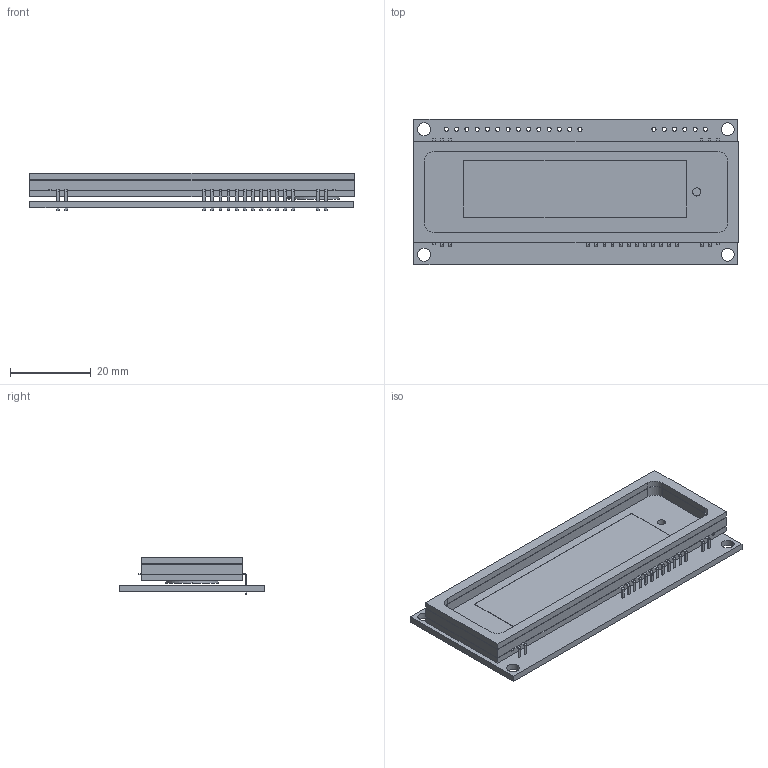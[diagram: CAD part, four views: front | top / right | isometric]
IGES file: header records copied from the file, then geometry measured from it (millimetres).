
Start section:  PTC IGES file: gu128x32d-7950.igs
Global section: file name: gu128x32d-7950.igs; native system: Pro/ENGINEER by Parametric Technology Corporation; preprocessor: 2010280; author: samx; organization: Unknown; date: 20140522.113130; units: millimetre
Bounding box: 80.07 x 36 x 9.3 mm (x, y, z)
Volume: 9784.9 mm3; surface area: 14297.3 mm2
Topology: 2 solids, 2 shells, 371 faces, 1176 edges, 768 vertices
Faces by surface type: bspline 279, revolution 92
